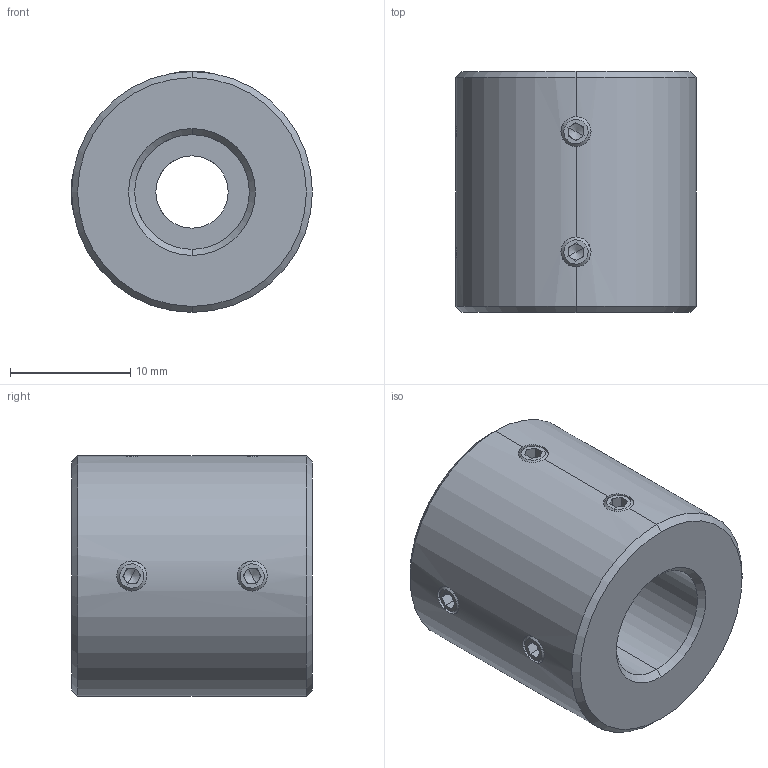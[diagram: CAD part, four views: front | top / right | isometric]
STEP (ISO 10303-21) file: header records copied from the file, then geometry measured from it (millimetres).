
FILE_DESCRIPTION (( 'STEP AP214' ), '1' );
FILE_NAME ('LL-D-D20L20-6-9.525.STEP', '2022-07-23T06:33:05', ( '' ), ( '' ), 'SwSTEP 2.0', 'SolidWorks 2022', '' );
FILE_SCHEMA (( 'AUTOMOTIVE_DESIGN' ));
Length unit declared in the file: millimetre
Products named in the file (1): LL-D-D20L20-6-9.525
Bounding box: 20 x 20 x 20 mm (x, y, z)
Volume: 5211.8 mm3; surface area: 2387.3 mm2
Topology: 1 solids, 1 shells, 113 faces, 286 edges, 176 vertices
Faces by surface type: plane 59, cone 32, cylinder 22
Entity records: 3642 total; most frequent: CARTESIAN_POINT 892, DIRECTION 582, ORIENTED_EDGE 556, EDGE_CURVE 278, AXIS2_PLACEMENT_3D 214, VERTEX_POINT 176, VECTOR 154, LINE 154
